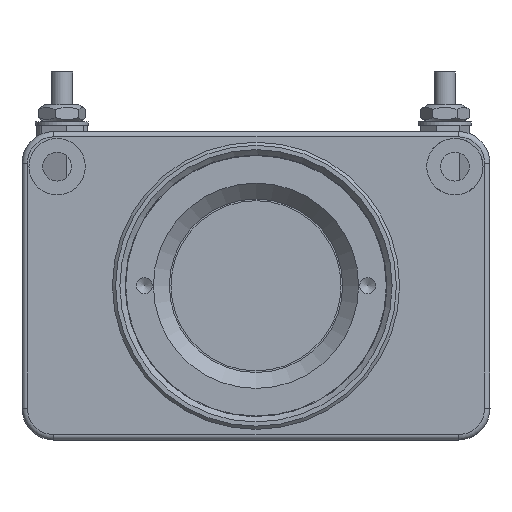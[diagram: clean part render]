
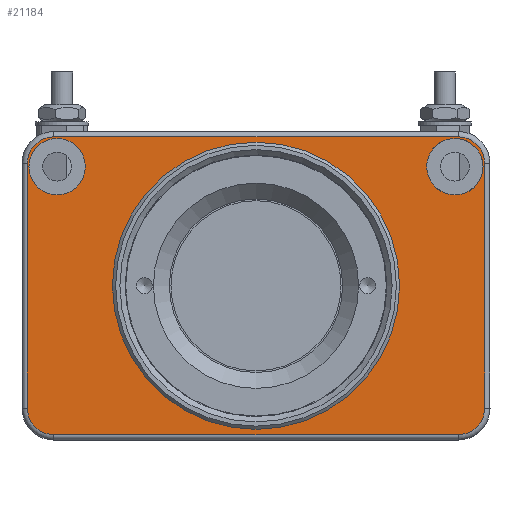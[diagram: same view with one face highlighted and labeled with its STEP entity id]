
A CAD part, left-side view. The second image highlights one B-rep face of the part: STEP entity #21184.
In plain terms, the highlighted planar face has unit normal (-1, 0, 0) as drawn and (0, 0, -1) by its records, which use the part's own axes.
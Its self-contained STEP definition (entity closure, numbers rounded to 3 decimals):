
#20351=CARTESIAN_POINT('',(-35.591,-35.023,-6.5));
#20352=VERTEX_POINT('',#20351);
#20353=CARTESIAN_POINT('',(-22.091,-35.023,-6.5));
#20354=DIRECTION('',(0.0,0.0,1.0));
#20355=DIRECTION('',(1.0,0.0,0.0));
#20356=AXIS2_PLACEMENT_3D('',#20353,#20354,#20355);
#20357=CIRCLE('',#20356,13.5);
#20358=EDGE_CURVE('',#20352,#20352,#20357,.T.);
#20760=CARTESIAN_POINT('',(-43.591,-23.523,-6.5));
#20761=VERTEX_POINT('',#20760);
#20769=CARTESIAN_POINT('',(-43.591,-46.523,-6.5));
#20770=VERTEX_POINT('',#20769);
#20771=CARTESIAN_POINT('',(-43.591,-23.523,-6.5));
#20772=DIRECTION('',(0.0,-1.0,0.0));
#20773=VECTOR('',#20772,23.);
#20774=LINE('',#20771,#20773);
#20775=EDGE_CURVE('',#20761,#20770,#20774,.T.);
#20802=CARTESIAN_POINT('',(-41.091,-21.023,-6.5));
#20803=VERTEX_POINT('',#20802);
#20811=CARTESIAN_POINT('',(-41.091,-23.523,-6.5));
#20812=DIRECTION('',(0.,0.,1.));
#20813=DIRECTION('',(-0.707,0.707,0.));
#20814=AXIS2_PLACEMENT_3D('',#20811,#20812,#20813);
#20815=CIRCLE('',#20814,2.5);
#20816=EDGE_CURVE('',#20803,#20761,#20815,.T.);
#20834=CARTESIAN_POINT('',(-41.091,-49.023,-6.5));
#20835=VERTEX_POINT('',#20834);
#20853=CARTESIAN_POINT('',(-41.091,-46.523,-6.5));
#20854=DIRECTION('',(0.,0.,1.));
#20855=DIRECTION('',(-0.707,-0.707,0.));
#20856=AXIS2_PLACEMENT_3D('',#20853,#20854,#20855);
#20857=CIRCLE('',#20856,2.5);
#20858=EDGE_CURVE('',#20770,#20835,#20857,.T.);
#20870=CARTESIAN_POINT('',(-3.091,-21.023,-6.5));
#20871=VERTEX_POINT('',#20870);
#20879=CARTESIAN_POINT('',(-3.091,-21.023,-6.5));
#20880=DIRECTION('',(-1.0,0.0,0.0));
#20881=VECTOR('',#20880,38.);
#20882=LINE('',#20879,#20881);
#20883=EDGE_CURVE('',#20871,#20803,#20882,.T.);
#20900=CARTESIAN_POINT('',(-3.091,-49.023,-6.5));
#20901=VERTEX_POINT('',#20900);
#20918=CARTESIAN_POINT('',(-41.091,-49.023,-6.5));
#20919=DIRECTION('',(1.0,0.0,0.0));
#20920=VECTOR('',#20919,38.);
#20921=LINE('',#20918,#20920);
#20922=EDGE_CURVE('',#20835,#20901,#20921,.T.);
#20934=CARTESIAN_POINT('',(-0.591,-23.523,-6.5));
#20935=VERTEX_POINT('',#20934);
#20943=CARTESIAN_POINT('',(-3.091,-23.523,-6.5));
#20944=DIRECTION('',(0.,0.,1.));
#20945=DIRECTION('',(0.707,0.707,0.));
#20946=AXIS2_PLACEMENT_3D('',#20943,#20944,#20945);
#20947=CIRCLE('',#20946,2.5);
#20948=EDGE_CURVE('',#20935,#20871,#20947,.T.);
#20966=CARTESIAN_POINT('',(-0.591,-46.523,-6.5));
#20967=VERTEX_POINT('',#20966);
#20985=CARTESIAN_POINT('',(-3.091,-46.523,-6.5));
#20986=DIRECTION('',(0.,0.,1.0));
#20987=DIRECTION('',(0.707,-0.707,0.));
#20988=AXIS2_PLACEMENT_3D('',#20985,#20986,#20987);
#20989=CIRCLE('',#20988,2.5);
#20990=EDGE_CURVE('',#20901,#20967,#20989,.T.);
#21008=CARTESIAN_POINT('',(-0.591,-46.523,-6.5));
#21009=DIRECTION('',(0.0,1.0,0.0));
#21010=VECTOR('',#21009,23.);
#21011=LINE('',#21008,#21010);
#21012=EDGE_CURVE('',#20967,#20935,#21011,.T.);
#21144=CARTESIAN_POINT('',(-22.091,-35.023,-6.5));
#21145=DIRECTION('',(0.0,0.0,1.0));
#21146=DIRECTION('',(1.0,0.0,0.0));
#21147=AXIS2_PLACEMENT_3D('',#21144,#21145,#21146);
#21148=PLANE('',#21147);
#21149=ORIENTED_EDGE('',*,*,#20775,.F.);
#21150=ORIENTED_EDGE('',*,*,#20816,.F.);
#21151=ORIENTED_EDGE('',*,*,#20883,.F.);
#21152=ORIENTED_EDGE('',*,*,#20948,.F.);
#21153=ORIENTED_EDGE('',*,*,#21012,.F.);
#21154=ORIENTED_EDGE('',*,*,#20990,.F.);
#21155=ORIENTED_EDGE('',*,*,#20922,.F.);
#21156=ORIENTED_EDGE('',*,*,#20858,.F.);
#21157=EDGE_LOOP('',(#21149,#21150,#21151,#21152,#21153,#21154,#21155,#21156));
#21158=FACE_OUTER_BOUND('',#21157,.T.);
#21159=ORIENTED_EDGE('',*,*,#20358,.T.);
#21160=EDGE_LOOP('',(#21159));
#21161=FACE_BOUND('',#21160,.T.);
#21162=CARTESIAN_POINT('',(-43.441,-23.823,-6.5));
#21163=VERTEX_POINT('',#21162);
#21164=CARTESIAN_POINT('',(-40.791,-23.823,-6.5));
#21165=DIRECTION('',(0.0,0.0,1.0));
#21166=DIRECTION('',(-1.0,0.0,0.0));
#21167=AXIS2_PLACEMENT_3D('',#21164,#21165,#21166);
#21168=CIRCLE('',#21167,2.65);
#21169=EDGE_CURVE('',#21163,#21163,#21168,.T.);
#21170=ORIENTED_EDGE('',*,*,#21169,.T.);
#21171=EDGE_LOOP('',(#21170));
#21172=FACE_BOUND('',#21171,.T.);
#21173=CARTESIAN_POINT('',(-6.041,-23.823,-6.5));
#21174=VERTEX_POINT('',#21173);
#21175=CARTESIAN_POINT('',(-3.391,-23.823,-6.5));
#21176=DIRECTION('',(0.0,0.0,1.0));
#21177=DIRECTION('',(-1.0,0.0,0.0));
#21178=AXIS2_PLACEMENT_3D('',#21175,#21176,#21177);
#21179=CIRCLE('',#21178,2.65);
#21180=EDGE_CURVE('',#21174,#21174,#21179,.T.);
#21181=ORIENTED_EDGE('',*,*,#21180,.T.);
#21182=EDGE_LOOP('',(#21181));
#21183=FACE_BOUND('',#21182,.T.);
#21184=ADVANCED_FACE('',(#21158,#21161,#21172,#21183),#21148,.F.);
